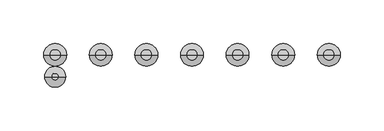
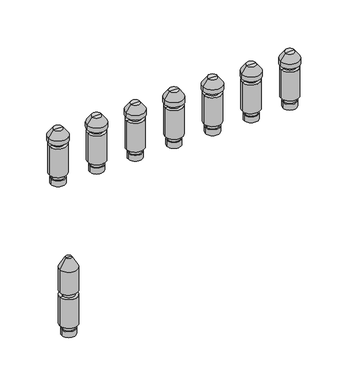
"""IFC4 building model written with IfcOpenShell, lengths in millimetres: valve geometry, PL AT_Manifold_FT-EV : 15 circuits."""

from ifc_helpers import new_model, si_unit, frame, origin, place, context, project, spatial, polyline, circle_curve, source, transform, mapped, element, save
from ifc_brep_helpers import plane_surface, cylinder_surface, revolved_surface, advanced_brep


def valve_e7cc262d(model_context):
    return source(origin(), model_context, "Body", "AdvancedBrep", [
        advanced_brep(
        [(658.2142857, 25.0, 164.88733), (677.2142857, 25.0, 164.88733), (667.7142857, 25.0, 164.88733), (658.2142857, 25.0, 172.9630354), (677.2142857, 25.0, 172.9630354), (659.7142857, 25.0, 172.9630354), (675.7142857, 25.0, 172.9630354), (659.7142857, 25.0, 179.669747), (675.7142857, 25.0, 179.669747), (655.7142857, 25.0, 179.669747), (679.7142857, 25.0, 179.669747), (655.7142857, 25.0, 220.330253), (679.7142857, 25.0, 220.330253), (659.7142857, 25.0, 220.330253), (675.7142857, 25.0, 220.330253), (659.7142857, 25.0, 226.0474786), (675.7142857, 25.0, 226.0474786), (654.7142857, 25.0, 226.0474786), (680.7142857, 25.0, 226.0474786), (654.7142857, 25.0, 232.337955), (680.7142857, 25.0, 232.337955), (661.3694636, 25.0, 241.842534), (674.0591078, 25.0, 241.842534), (667.7142857, 25.0, 241.842534)],
        [
            (0, 1, circle_curve(frame((667.7142857, 25.0, 164.88733), z_axis=(0.0, 0.0, -1.0), x_axis=(1.0, 0.0, 0.0)), 9.5)),
            (1, 2),
            (2, 0),
            (1, 0, circle_curve(frame((667.7142857, 25.0, 164.88733), z_axis=(0.0, 0.0, -1.0), x_axis=(1.0, 0.0, 0.0)), 9.5)),
            (3, 4, circle_curve(frame((667.7142857, 25.0, 172.9630354), z_axis=(0.0, 0.0, -1.0), x_axis=(1.0, 0.0, 0.0)), 9.5)),
            (4, 1),
            (0, 3),
            (4, 3, circle_curve(frame((667.7142857, 25.0, 172.9630354), z_axis=(0.0, 0.0, -1.0), x_axis=(1.0, 0.0, 0.0)), 9.5)),
            (5, 6, circle_curve(frame((667.7142857, 25.0, 172.9630354), z_axis=(0.0, 0.0, -1.0), x_axis=(1.0, 0.0, 0.0)), 8.0)),
            (6, 4),
            (3, 5),
            (6, 5, circle_curve(frame((667.7142857, 25.0, 172.9630354), z_axis=(0.0, 0.0, -1.0), x_axis=(1.0, 0.0, 0.0)), 8.0)),
            (7, 8, circle_curve(frame((667.7142857, 25.0, 179.669747), z_axis=(0.0, 0.0, -1.0), x_axis=(1.0, 0.0, 0.0)), 8.0)),
            (8, 6),
            (5, 7),
            (8, 7, circle_curve(frame((667.7142857, 25.0, 179.669747), z_axis=(0.0, 0.0, -1.0), x_axis=(1.0, 0.0, 0.0)), 8.0)),
            (9, 10, circle_curve(frame((667.7142857, 25.0, 179.669747), z_axis=(0.0, 0.0, -1.0), x_axis=(1.0, 0.0, 0.0)), 12.0)),
            (10, 8),
            (7, 9),
            (10, 9, circle_curve(frame((667.7142857, 25.0, 179.669747), z_axis=(0.0, 0.0, -1.0), x_axis=(1.0, 0.0, 0.0)), 12.0)),
            (11, 12, circle_curve(frame((667.7142857, 25.0, 220.330253), z_axis=(0.0, 0.0, -1.0), x_axis=(1.0, 0.0, 0.0)), 12.0)),
            (12, 10),
            (9, 11),
            (12, 11, circle_curve(frame((667.7142857, 25.0, 220.330253), z_axis=(0.0, 0.0, -1.0), x_axis=(1.0, 0.0, 0.0)), 12.0)),
            (13, 14, circle_curve(frame((667.7142857, 25.0, 220.330253), z_axis=(0.0, 0.0, -1.0), x_axis=(1.0, 0.0, 0.0)), 8.0)),
            (14, 12),
            (11, 13),
            (14, 13, circle_curve(frame((667.7142857, 25.0, 220.330253), z_axis=(0.0, 0.0, -1.0), x_axis=(1.0, 0.0, 0.0)), 8.0)),
            (15, 16, circle_curve(frame((667.7142857, 25.0, 226.0474786), z_axis=(0.0, 0.0, -1.0), x_axis=(1.0, 0.0, 0.0)), 8.0)),
            (16, 14),
            (13, 15),
            (16, 15, circle_curve(frame((667.7142857, 25.0, 226.0474786), z_axis=(0.0, 0.0, -1.0), x_axis=(1.0, 0.0, 0.0)), 8.0)),
            (17, 18, circle_curve(frame((667.7142857, 25.0, 226.0474786), z_axis=(0.0, 0.0, -1.0), x_axis=(1.0, 0.0, 0.0)), 13.0)),
            (18, 16),
            (15, 17),
            (18, 17, circle_curve(frame((667.7142857, 25.0, 226.0474786), z_axis=(0.0, 0.0, -1.0), x_axis=(1.0, 0.0, 0.0)), 13.0)),
            (19, 20, circle_curve(frame((667.7142857, 25.0, 232.337955), z_axis=(0.0, 0.0, -1.0), x_axis=(1.0, 0.0, 0.0)), 13.0)),
            (20, 18),
            (17, 19),
            (20, 19, circle_curve(frame((667.7142857, 25.0, 232.337955), z_axis=(0.0, 0.0, -1.0), x_axis=(1.0, 0.0, 0.0)), 13.0)),
            (21, 22, circle_curve(frame((667.7142857, 25.0, 241.842534), z_axis=(0.0, 0.0, -1.0), x_axis=(1.0, 0.0, 0.0)), 6.3448221)),
            (22, 20),
            (19, 21),
            (22, 21, circle_curve(frame((667.7142857, 25.0, 241.842534), z_axis=(0.0, 0.0, -1.0), x_axis=(1.0, 0.0, 0.0)), 6.3448221)),
            (23, 22),
            (21, 23),
        ],
        [
            plane_surface(frame((667.7142857, 25.0, 164.88733), z_axis=(0.0, 0.0, -1.0), x_axis=(1.0, 0.0, 0.0))),
            cylinder_surface(frame((667.7142857, 25.0, 237.7026565), z_axis=(0.0, 0.0, 1.0), x_axis=(1.0, 0.0, 0.0)), 9.5),
            plane_surface(frame((667.7142857, 25.0, 172.9630354), z_axis=(0.0, 0.0, 1.0), x_axis=(1.0, 0.0, 0.0))),
            cylinder_surface(frame((667.7142857, 25.0, 237.7026565), z_axis=(0.0, 0.0, 1.0), x_axis=(1.0, 0.0, 0.0)), 8.0),
            plane_surface(frame((667.7142857, 25.0, 179.669747), z_axis=(0.0, 0.0, -1.0), x_axis=(1.0, 0.0, 0.0))),
            cylinder_surface(frame((667.7142857, 25.0, 237.7026565), z_axis=(0.0, 0.0, 1.0), x_axis=(1.0, 0.0, 0.0)), 12.0),
            plane_surface(frame((667.7142857, 25.0, 220.330253), z_axis=(0.0, 0.0, 1.0), x_axis=(1.0, 0.0, 0.0))),
            plane_surface(frame((667.7142857, 25.0, 226.0474786), z_axis=(0.0, 0.0, -1.0), x_axis=(1.0, 0.0, 0.0))),
            cylinder_surface(frame((667.7142857, 25.0, 237.7026565), z_axis=(0.0, 0.0, 1.0), x_axis=(1.0, 0.0, 0.0)), 13.0),
            revolved_surface(polyline([(680.7142857, 25.0, 232.337955), (674.0591078, 25.0, 241.842534)]), (667.7142857, 25.0, 237.7026565), (0.0, 0.0, 1.0)),
            plane_surface(frame((667.7142857, 25.0, 241.842534), z_axis=(0.0, 0.0, 1.0), x_axis=(1.0, 0.0, 0.0))),
        ],
        [
            (0, [[1, 2, 3]]),
            (0, [[4, -3, -2]]),
            (1, [[5, 6, -1, 7]]),
            (1, [[8, -7, -4, -6]]),
            (2, [[9, 10, -5, 11]]),
            (2, [[12, -11, -8, -10]]),
            (3, [[13, 14, -9, 15]]),
            (3, [[16, -15, -12, -14]]),
            (4, [[17, 18, -13, 19]]),
            (4, [[20, -19, -16, -18]]),
            (5, [[21, 22, -17, 23]]),
            (5, [[24, -23, -20, -22]]),
            (6, [[25, 26, -21, 27]]),
            (6, [[28, -27, -24, -26]]),
            (3, [[29, 30, -25, 31]]),
            (3, [[32, -31, -28, -30]]),
            (7, [[33, 34, -29, 35]]),
            (7, [[36, -35, -32, -34]]),
            (8, [[37, 38, -33, 39]]),
            (8, [[40, -39, -36, -38]]),
            (9, [[41, 42, -37, 43]]),
            (9, [[44, -43, -40, -42]]),
            (10, [[45, -41, 46]]),
            (10, [[-46, -44, -45]]),
        ],
    ),
        advanced_brep(
        [(606.0714286, 25.0, 164.88733), (625.0714286, 25.0, 164.88733), (615.5714286, 25.0, 164.88733), (606.0714286, 25.0, 172.9630354), (625.0714286, 25.0, 172.9630354), (607.5714286, 25.0, 172.9630354), (623.5714286, 25.0, 172.9630354), (607.5714286, 25.0, 179.669747), (623.5714286, 25.0, 179.669747), (603.5714286, 25.0, 179.669747), (627.5714286, 25.0, 179.669747), (603.5714286, 25.0, 220.330253), (627.5714286, 25.0, 220.330253), (607.5714286, 25.0, 220.330253), (623.5714286, 25.0, 220.330253), (607.5714286, 25.0, 226.0474786), (623.5714286, 25.0, 226.0474786), (602.5714286, 25.0, 226.0474786), (628.5714286, 25.0, 226.0474786), (602.5714286, 25.0, 232.337955), (628.5714286, 25.0, 232.337955), (609.2266064, 25.0, 241.842534), (621.9162507, 25.0, 241.842534), (615.5714286, 25.0, 241.842534)],
        [
            (0, 1, circle_curve(frame((615.5714286, 25.0, 164.88733), z_axis=(0.0, 0.0, -1.0), x_axis=(1.0, 0.0, 0.0)), 9.5)),
            (1, 2),
            (2, 0),
            (1, 0, circle_curve(frame((615.5714286, 25.0, 164.88733), z_axis=(0.0, 0.0, -1.0), x_axis=(1.0, 0.0, 0.0)), 9.5)),
            (3, 4, circle_curve(frame((615.5714286, 25.0, 172.9630354), z_axis=(0.0, 0.0, -1.0), x_axis=(1.0, 0.0, 0.0)), 9.5)),
            (4, 1),
            (0, 3),
            (4, 3, circle_curve(frame((615.5714286, 25.0, 172.9630354), z_axis=(0.0, 0.0, -1.0), x_axis=(1.0, 0.0, 0.0)), 9.5)),
            (5, 6, circle_curve(frame((615.5714286, 25.0, 172.9630354), z_axis=(0.0, 0.0, -1.0), x_axis=(1.0, 0.0, 0.0)), 8.0)),
            (6, 4),
            (3, 5),
            (6, 5, circle_curve(frame((615.5714286, 25.0, 172.9630354), z_axis=(0.0, 0.0, -1.0), x_axis=(1.0, 0.0, 0.0)), 8.0)),
            (7, 8, circle_curve(frame((615.5714286, 25.0, 179.669747), z_axis=(0.0, 0.0, -1.0), x_axis=(1.0, 0.0, 0.0)), 8.0)),
            (8, 6),
            (5, 7),
            (8, 7, circle_curve(frame((615.5714286, 25.0, 179.669747), z_axis=(0.0, 0.0, -1.0), x_axis=(1.0, 0.0, 0.0)), 8.0)),
            (9, 10, circle_curve(frame((615.5714286, 25.0, 179.669747), z_axis=(0.0, 0.0, -1.0), x_axis=(1.0, 0.0, 0.0)), 12.0)),
            (10, 8),
            (7, 9),
            (10, 9, circle_curve(frame((615.5714286, 25.0, 179.669747), z_axis=(0.0, 0.0, -1.0), x_axis=(1.0, 0.0, 0.0)), 12.0)),
            (11, 12, circle_curve(frame((615.5714286, 25.0, 220.330253), z_axis=(0.0, 0.0, -1.0), x_axis=(1.0, 0.0, 0.0)), 12.0)),
            (12, 10),
            (9, 11),
            (12, 11, circle_curve(frame((615.5714286, 25.0, 220.330253), z_axis=(0.0, 0.0, -1.0), x_axis=(1.0, 0.0, 0.0)), 12.0)),
            (13, 14, circle_curve(frame((615.5714286, 25.0, 220.330253), z_axis=(0.0, 0.0, -1.0), x_axis=(1.0, 0.0, 0.0)), 8.0)),
            (14, 12),
            (11, 13),
            (14, 13, circle_curve(frame((615.5714286, 25.0, 220.330253), z_axis=(0.0, 0.0, -1.0), x_axis=(1.0, 0.0, 0.0)), 8.0)),
            (15, 16, circle_curve(frame((615.5714286, 25.0, 226.0474786), z_axis=(0.0, 0.0, -1.0), x_axis=(1.0, 0.0, 0.0)), 8.0)),
            (16, 14),
            (13, 15),
            (16, 15, circle_curve(frame((615.5714286, 25.0, 226.0474786), z_axis=(0.0, 0.0, -1.0), x_axis=(1.0, 0.0, 0.0)), 8.0)),
            (17, 18, circle_curve(frame((615.5714286, 25.0, 226.0474786), z_axis=(0.0, 0.0, -1.0), x_axis=(1.0, 0.0, 0.0)), 13.0)),
            (18, 16),
            (15, 17),
            (18, 17, circle_curve(frame((615.5714286, 25.0, 226.0474786), z_axis=(0.0, 0.0, -1.0), x_axis=(1.0, 0.0, 0.0)), 13.0)),
            (19, 20, circle_curve(frame((615.5714286, 25.0, 232.337955), z_axis=(0.0, 0.0, -1.0), x_axis=(1.0, 0.0, 0.0)), 13.0)),
            (20, 18),
            (17, 19),
            (20, 19, circle_curve(frame((615.5714286, 25.0, 232.337955), z_axis=(0.0, 0.0, -1.0), x_axis=(1.0, 0.0, 0.0)), 13.0)),
            (21, 22, circle_curve(frame((615.5714286, 25.0, 241.842534), z_axis=(0.0, 0.0, -1.0), x_axis=(1.0, 0.0, 0.0)), 6.3448221)),
            (22, 20),
            (19, 21),
            (22, 21, circle_curve(frame((615.5714286, 25.0, 241.842534), z_axis=(0.0, 0.0, -1.0), x_axis=(1.0, 0.0, 0.0)), 6.3448221)),
            (23, 22),
            (21, 23),
        ],
        [
            plane_surface(frame((615.5714286, 25.0, 164.88733), z_axis=(0.0, 0.0, -1.0), x_axis=(1.0, 0.0, 0.0))),
            cylinder_surface(frame((615.5714286, 25.0, 237.7026565), z_axis=(0.0, 0.0, 1.0), x_axis=(1.0, 0.0, 0.0)), 9.5),
            plane_surface(frame((615.5714286, 25.0, 172.9630354), z_axis=(0.0, 0.0, 1.0), x_axis=(1.0, 0.0, 0.0))),
            cylinder_surface(frame((615.5714286, 25.0, 237.7026565), z_axis=(0.0, 0.0, 1.0), x_axis=(1.0, 0.0, 0.0)), 8.0),
            plane_surface(frame((615.5714286, 25.0, 179.669747), z_axis=(0.0, 0.0, -1.0), x_axis=(1.0, 0.0, 0.0))),
            cylinder_surface(frame((615.5714286, 25.0, 237.7026565), z_axis=(0.0, 0.0, 1.0), x_axis=(1.0, 0.0, 0.0)), 12.0),
            plane_surface(frame((615.5714286, 25.0, 220.330253), z_axis=(0.0, 0.0, 1.0), x_axis=(1.0, 0.0, 0.0))),
            plane_surface(frame((615.5714286, 25.0, 226.0474786), z_axis=(0.0, 0.0, -1.0), x_axis=(1.0, 0.0, 0.0))),
            cylinder_surface(frame((615.5714286, 25.0, 237.7026565), z_axis=(0.0, 0.0, 1.0), x_axis=(1.0, 0.0, 0.0)), 13.0),
            revolved_surface(polyline([(628.5714286, 25.0, 232.337955), (621.9162507, 25.0, 241.842534)]), (615.5714286, 25.0, 237.7026565), (0.0, 0.0, 1.0)),
            plane_surface(frame((615.5714286, 25.0, 241.842534), z_axis=(0.0, 0.0, 1.0), x_axis=(1.0, 0.0, 0.0))),
        ],
        [
            (0, [[1, 2, 3]]),
            (0, [[4, -3, -2]]),
            (1, [[5, 6, -1, 7]]),
            (1, [[8, -7, -4, -6]]),
            (2, [[9, 10, -5, 11]]),
            (2, [[12, -11, -8, -10]]),
            (3, [[13, 14, -9, 15]]),
            (3, [[16, -15, -12, -14]]),
            (4, [[17, 18, -13, 19]]),
            (4, [[20, -19, -16, -18]]),
            (5, [[21, 22, -17, 23]]),
            (5, [[24, -23, -20, -22]]),
            (6, [[25, 26, -21, 27]]),
            (6, [[28, -27, -24, -26]]),
            (3, [[29, 30, -25, 31]]),
            (3, [[32, -31, -28, -30]]),
            (7, [[33, 34, -29, 35]]),
            (7, [[36, -35, -32, -34]]),
            (8, [[37, 38, -33, 39]]),
            (8, [[40, -39, -36, -38]]),
            (9, [[41, 42, -37, 43]]),
            (9, [[44, -43, -40, -42]]),
            (10, [[45, -41, 46]]),
            (10, [[-46, -44, -45]]),
        ],
    ),
        advanced_brep(
        [(553.9285714, 25.0, 164.88733), (572.9285714, 25.0, 164.88733), (563.4285714, 25.0, 164.88733), (553.9285714, 25.0, 172.9630354), (572.9285714, 25.0, 172.9630354), (555.4285714, 25.0, 172.9630354), (571.4285714, 25.0, 172.9630354), (555.4285714, 25.0, 179.669747), (571.4285714, 25.0, 179.669747), (551.4285714, 25.0, 179.669747), (575.4285714, 25.0, 179.669747), (551.4285714, 25.0, 220.330253), (575.4285714, 25.0, 220.330253), (555.4285714, 25.0, 220.330253), (571.4285714, 25.0, 220.330253), (555.4285714, 25.0, 226.0474786), (571.4285714, 25.0, 226.0474786), (550.4285714, 25.0, 226.0474786), (576.4285714, 25.0, 226.0474786), (550.4285714, 25.0, 232.337955), (576.4285714, 25.0, 232.337955), (557.0837493, 25.0, 241.842534), (569.7733936, 25.0, 241.842534), (563.4285714, 25.0, 241.842534)],
        [
            (0, 1, circle_curve(frame((563.4285714, 25.0, 164.88733), z_axis=(0.0, 0.0, -1.0), x_axis=(1.0, 0.0, 0.0)), 9.5)),
            (1, 2),
            (2, 0),
            (1, 0, circle_curve(frame((563.4285714, 25.0, 164.88733), z_axis=(0.0, 0.0, -1.0), x_axis=(1.0, 0.0, 0.0)), 9.5)),
            (3, 4, circle_curve(frame((563.4285714, 25.0, 172.9630354), z_axis=(0.0, 0.0, -1.0), x_axis=(1.0, 0.0, 0.0)), 9.5)),
            (4, 1),
            (0, 3),
            (4, 3, circle_curve(frame((563.4285714, 25.0, 172.9630354), z_axis=(0.0, 0.0, -1.0), x_axis=(1.0, 0.0, 0.0)), 9.5)),
            (5, 6, circle_curve(frame((563.4285714, 25.0, 172.9630354), z_axis=(0.0, 0.0, -1.0), x_axis=(1.0, 0.0, 0.0)), 8.0)),
            (6, 4),
            (3, 5),
            (6, 5, circle_curve(frame((563.4285714, 25.0, 172.9630354), z_axis=(0.0, 0.0, -1.0), x_axis=(1.0, 0.0, 0.0)), 8.0)),
            (7, 8, circle_curve(frame((563.4285714, 25.0, 179.669747), z_axis=(0.0, 0.0, -1.0), x_axis=(1.0, 0.0, 0.0)), 8.0)),
            (8, 6),
            (5, 7),
            (8, 7, circle_curve(frame((563.4285714, 25.0, 179.669747), z_axis=(0.0, 0.0, -1.0), x_axis=(1.0, 0.0, 0.0)), 8.0)),
            (9, 10, circle_curve(frame((563.4285714, 25.0, 179.669747), z_axis=(0.0, 0.0, -1.0), x_axis=(1.0, 0.0, 0.0)), 12.0)),
            (10, 8),
            (7, 9),
            (10, 9, circle_curve(frame((563.4285714, 25.0, 179.669747), z_axis=(0.0, 0.0, -1.0), x_axis=(1.0, 0.0, 0.0)), 12.0)),
            (11, 12, circle_curve(frame((563.4285714, 25.0, 220.330253), z_axis=(0.0, 0.0, -1.0), x_axis=(1.0, 0.0, 0.0)), 12.0)),
            (12, 10),
            (9, 11),
            (12, 11, circle_curve(frame((563.4285714, 25.0, 220.330253), z_axis=(0.0, 0.0, -1.0), x_axis=(1.0, 0.0, 0.0)), 12.0)),
            (13, 14, circle_curve(frame((563.4285714, 25.0, 220.330253), z_axis=(0.0, 0.0, -1.0), x_axis=(1.0, 0.0, 0.0)), 8.0)),
            (14, 12),
            (11, 13),
            (14, 13, circle_curve(frame((563.4285714, 25.0, 220.330253), z_axis=(0.0, 0.0, -1.0), x_axis=(1.0, 0.0, 0.0)), 8.0)),
            (15, 16, circle_curve(frame((563.4285714, 25.0, 226.0474786), z_axis=(0.0, 0.0, -1.0), x_axis=(1.0, 0.0, 0.0)), 8.0)),
            (16, 14),
            (13, 15),
            (16, 15, circle_curve(frame((563.4285714, 25.0, 226.0474786), z_axis=(0.0, 0.0, -1.0), x_axis=(1.0, 0.0, 0.0)), 8.0)),
            (17, 18, circle_curve(frame((563.4285714, 25.0, 226.0474786), z_axis=(0.0, 0.0, -1.0), x_axis=(1.0, 0.0, 0.0)), 13.0)),
            (18, 16),
            (15, 17),
            (18, 17, circle_curve(frame((563.4285714, 25.0, 226.0474786), z_axis=(0.0, 0.0, -1.0), x_axis=(1.0, 0.0, 0.0)), 13.0)),
            (19, 20, circle_curve(frame((563.4285714, 25.0, 232.337955), z_axis=(0.0, 0.0, -1.0), x_axis=(1.0, 0.0, 0.0)), 13.0)),
            (20, 18),
            (17, 19),
            (20, 19, circle_curve(frame((563.4285714, 25.0, 232.337955), z_axis=(0.0, 0.0, -1.0), x_axis=(1.0, 0.0, 0.0)), 13.0)),
            (21, 22, circle_curve(frame((563.4285714, 25.0, 241.842534), z_axis=(0.0, 0.0, -1.0), x_axis=(1.0, 0.0, 0.0)), 6.3448221)),
            (22, 20),
            (19, 21),
            (22, 21, circle_curve(frame((563.4285714, 25.0, 241.842534), z_axis=(0.0, 0.0, -1.0), x_axis=(1.0, 0.0, 0.0)), 6.3448221)),
            (23, 22),
            (21, 23),
        ],
        [
            plane_surface(frame((563.4285714, 25.0, 164.88733), z_axis=(0.0, 0.0, -1.0), x_axis=(1.0, 0.0, 0.0))),
            cylinder_surface(frame((563.4285714, 25.0, 237.7026565), z_axis=(0.0, 0.0, 1.0), x_axis=(1.0, 0.0, 0.0)), 9.5),
            plane_surface(frame((563.4285714, 25.0, 172.9630354), z_axis=(0.0, 0.0, 1.0), x_axis=(1.0, 0.0, 0.0))),
            cylinder_surface(frame((563.4285714, 25.0, 237.7026565), z_axis=(0.0, 0.0, 1.0), x_axis=(1.0, 0.0, 0.0)), 8.0),
            plane_surface(frame((563.4285714, 25.0, 179.669747), z_axis=(0.0, 0.0, -1.0), x_axis=(1.0, 0.0, 0.0))),
            cylinder_surface(frame((563.4285714, 25.0, 237.7026565), z_axis=(0.0, 0.0, 1.0), x_axis=(1.0, 0.0, 0.0)), 12.0),
            plane_surface(frame((563.4285714, 25.0, 220.330253), z_axis=(0.0, 0.0, 1.0), x_axis=(1.0, 0.0, 0.0))),
            plane_surface(frame((563.4285714, 25.0, 226.0474786), z_axis=(0.0, 0.0, -1.0), x_axis=(1.0, 0.0, 0.0))),
            cylinder_surface(frame((563.4285714, 25.0, 237.7026565), z_axis=(0.0, 0.0, 1.0), x_axis=(1.0, 0.0, 0.0)), 13.0),
            revolved_surface(polyline([(576.4285714, 25.0, 232.337955), (569.7733936, 25.0, 241.842534)]), (563.4285714, 25.0, 237.7026565), (0.0, 0.0, 1.0)),
            plane_surface(frame((563.4285714, 25.0, 241.842534), z_axis=(0.0, 0.0, 1.0), x_axis=(1.0, 0.0, 0.0))),
        ],
        [
            (0, [[1, 2, 3]]),
            (0, [[4, -3, -2]]),
            (1, [[5, 6, -1, 7]]),
            (1, [[8, -7, -4, -6]]),
            (2, [[9, 10, -5, 11]]),
            (2, [[12, -11, -8, -10]]),
            (3, [[13, 14, -9, 15]]),
            (3, [[16, -15, -12, -14]]),
            (4, [[17, 18, -13, 19]]),
            (4, [[20, -19, -16, -18]]),
            (5, [[21, 22, -17, 23]]),
            (5, [[24, -23, -20, -22]]),
            (6, [[25, 26, -21, 27]]),
            (6, [[28, -27, -24, -26]]),
            (3, [[29, 30, -25, 31]]),
            (3, [[32, -31, -28, -30]]),
            (7, [[33, 34, -29, 35]]),
            (7, [[36, -35, -32, -34]]),
            (8, [[37, 38, -33, 39]]),
            (8, [[40, -39, -36, -38]]),
            (9, [[41, 42, -37, 43]]),
            (9, [[44, -43, -40, -42]]),
            (10, [[45, -41, 46]]),
            (10, [[-46, -44, -45]]),
        ],
    ),
        advanced_brep(
        [(501.7857143, 25.0, 164.88733), (520.7857143, 25.0, 164.88733), (511.2857143, 25.0, 164.88733), (501.7857143, 25.0, 172.9630354), (520.7857143, 25.0, 172.9630354), (503.2857143, 25.0, 172.9630354), (519.2857143, 25.0, 172.9630354), (503.2857143, 25.0, 179.669747), (519.2857143, 25.0, 179.669747), (499.2857143, 25.0, 179.669747), (523.2857143, 25.0, 179.669747), (499.2857143, 25.0, 220.330253), (523.2857143, 25.0, 220.330253), (503.2857143, 25.0, 220.330253), (519.2857143, 25.0, 220.330253), (503.2857143, 25.0, 226.0474786), (519.2857143, 25.0, 226.0474786), (498.2857143, 25.0, 226.0474786), (524.2857143, 25.0, 226.0474786), (498.2857143, 25.0, 232.337955), (524.2857143, 25.0, 232.337955), (504.9408922, 25.0, 241.842534), (517.6305364, 25.0, 241.842534), (511.2857143, 25.0, 241.842534)],
        [
            (0, 1, circle_curve(frame((511.2857143, 25.0, 164.88733), z_axis=(0.0, 0.0, -1.0), x_axis=(1.0, 0.0, 0.0)), 9.5)),
            (1, 2),
            (2, 0),
            (1, 0, circle_curve(frame((511.2857143, 25.0, 164.88733), z_axis=(0.0, 0.0, -1.0), x_axis=(1.0, 0.0, 0.0)), 9.5)),
            (3, 4, circle_curve(frame((511.2857143, 25.0, 172.9630354), z_axis=(0.0, 0.0, -1.0), x_axis=(1.0, 0.0, 0.0)), 9.5)),
            (4, 1),
            (0, 3),
            (4, 3, circle_curve(frame((511.2857143, 25.0, 172.9630354), z_axis=(0.0, 0.0, -1.0), x_axis=(1.0, 0.0, 0.0)), 9.5)),
            (5, 6, circle_curve(frame((511.2857143, 25.0, 172.9630354), z_axis=(0.0, 0.0, -1.0), x_axis=(1.0, 0.0, 0.0)), 8.0)),
            (6, 4),
            (3, 5),
            (6, 5, circle_curve(frame((511.2857143, 25.0, 172.9630354), z_axis=(0.0, 0.0, -1.0), x_axis=(1.0, 0.0, 0.0)), 8.0)),
            (7, 8, circle_curve(frame((511.2857143, 25.0, 179.669747), z_axis=(0.0, 0.0, -1.0), x_axis=(1.0, 0.0, 0.0)), 8.0)),
            (8, 6),
            (5, 7),
            (8, 7, circle_curve(frame((511.2857143, 25.0, 179.669747), z_axis=(0.0, 0.0, -1.0), x_axis=(1.0, 0.0, 0.0)), 8.0)),
            (9, 10, circle_curve(frame((511.2857143, 25.0, 179.669747), z_axis=(0.0, 0.0, -1.0), x_axis=(1.0, 0.0, 0.0)), 12.0)),
            (10, 8),
            (7, 9),
            (10, 9, circle_curve(frame((511.2857143, 25.0, 179.669747), z_axis=(0.0, 0.0, -1.0), x_axis=(1.0, 0.0, 0.0)), 12.0)),
            (11, 12, circle_curve(frame((511.2857143, 25.0, 220.330253), z_axis=(0.0, 0.0, -1.0), x_axis=(1.0, 0.0, 0.0)), 12.0)),
            (12, 10),
            (9, 11),
            (12, 11, circle_curve(frame((511.2857143, 25.0, 220.330253), z_axis=(0.0, 0.0, -1.0), x_axis=(1.0, 0.0, 0.0)), 12.0)),
            (13, 14, circle_curve(frame((511.2857143, 25.0, 220.330253), z_axis=(0.0, 0.0, -1.0), x_axis=(1.0, 0.0, 0.0)), 8.0)),
            (14, 12),
            (11, 13),
            (14, 13, circle_curve(frame((511.2857143, 25.0, 220.330253), z_axis=(0.0, 0.0, -1.0), x_axis=(1.0, 0.0, 0.0)), 8.0)),
            (15, 16, circle_curve(frame((511.2857143, 25.0, 226.0474786), z_axis=(0.0, 0.0, -1.0), x_axis=(1.0, 0.0, 0.0)), 8.0)),
            (16, 14),
            (13, 15),
            (16, 15, circle_curve(frame((511.2857143, 25.0, 226.0474786), z_axis=(0.0, 0.0, -1.0), x_axis=(1.0, 0.0, 0.0)), 8.0)),
            (17, 18, circle_curve(frame((511.2857143, 25.0, 226.0474786), z_axis=(0.0, 0.0, -1.0), x_axis=(1.0, 0.0, 0.0)), 13.0)),
            (18, 16),
            (15, 17),
            (18, 17, circle_curve(frame((511.2857143, 25.0, 226.0474786), z_axis=(0.0, 0.0, -1.0), x_axis=(1.0, 0.0, 0.0)), 13.0)),
            (19, 20, circle_curve(frame((511.2857143, 25.0, 232.337955), z_axis=(0.0, 0.0, -1.0), x_axis=(1.0, 0.0, 0.0)), 13.0)),
            (20, 18),
            (17, 19),
            (20, 19, circle_curve(frame((511.2857143, 25.0, 232.337955), z_axis=(0.0, 0.0, -1.0), x_axis=(1.0, 0.0, 0.0)), 13.0)),
            (21, 22, circle_curve(frame((511.2857143, 25.0, 241.842534), z_axis=(0.0, 0.0, -1.0), x_axis=(1.0, 0.0, 0.0)), 6.3448221)),
            (22, 20),
            (19, 21),
            (22, 21, circle_curve(frame((511.2857143, 25.0, 241.842534), z_axis=(0.0, 0.0, -1.0), x_axis=(1.0, 0.0, 0.0)), 6.3448221)),
            (23, 22),
            (21, 23),
        ],
        [
            plane_surface(frame((511.2857143, 25.0, 164.88733), z_axis=(0.0, 0.0, -1.0), x_axis=(1.0, 0.0, 0.0))),
            cylinder_surface(frame((511.2857143, 25.0, 237.7026565), z_axis=(0.0, 0.0, 1.0), x_axis=(1.0, 0.0, 0.0)), 9.5),
            plane_surface(frame((511.2857143, 25.0, 172.9630354), z_axis=(0.0, 0.0, 1.0), x_axis=(1.0, 0.0, 0.0))),
            cylinder_surface(frame((511.2857143, 25.0, 237.7026565), z_axis=(0.0, 0.0, 1.0), x_axis=(1.0, 0.0, 0.0)), 8.0),
            plane_surface(frame((511.2857143, 25.0, 179.669747), z_axis=(0.0, 0.0, -1.0), x_axis=(1.0, 0.0, 0.0))),
            cylinder_surface(frame((511.2857143, 25.0, 237.7026565), z_axis=(0.0, 0.0, 1.0), x_axis=(1.0, 0.0, 0.0)), 12.0),
            plane_surface(frame((511.2857143, 25.0, 220.330253), z_axis=(0.0, 0.0, 1.0), x_axis=(1.0, 0.0, 0.0))),
            plane_surface(frame((511.2857143, 25.0, 226.0474786), z_axis=(0.0, 0.0, -1.0), x_axis=(1.0, 0.0, 0.0))),
            cylinder_surface(frame((511.2857143, 25.0, 237.7026565), z_axis=(0.0, 0.0, 1.0), x_axis=(1.0, 0.0, 0.0)), 13.0),
            revolved_surface(polyline([(524.2857143, 25.0, 232.337955), (517.6305364, 25.0, 241.842534)]), (511.2857143, 25.0, 237.7026565), (0.0, 0.0, 1.0)),
            plane_surface(frame((511.2857143, 25.0, 241.842534), z_axis=(0.0, 0.0, 1.0), x_axis=(1.0, 0.0, 0.0))),
        ],
        [
            (0, [[1, 2, 3]]),
            (0, [[4, -3, -2]]),
            (1, [[5, 6, -1, 7]]),
            (1, [[8, -7, -4, -6]]),
            (2, [[9, 10, -5, 11]]),
            (2, [[12, -11, -8, -10]]),
            (3, [[13, 14, -9, 15]]),
            (3, [[16, -15, -12, -14]]),
            (4, [[17, 18, -13, 19]]),
            (4, [[20, -19, -16, -18]]),
            (5, [[21, 22, -17, 23]]),
            (5, [[24, -23, -20, -22]]),
            (6, [[25, 26, -21, 27]]),
            (6, [[28, -27, -24, -26]]),
            (3, [[29, 30, -25, 31]]),
            (3, [[32, -31, -28, -30]]),
            (7, [[33, 34, -29, 35]]),
            (7, [[36, -35, -32, -34]]),
            (8, [[37, 38, -33, 39]]),
            (8, [[40, -39, -36, -38]]),
            (9, [[41, 42, -37, 43]]),
            (9, [[44, -43, -40, -42]]),
            (10, [[45, -41, 46]]),
            (10, [[-46, -44, -45]]),
        ],
    ),
        advanced_brep(
        [(449.6428571, 25.0, 164.88733), (468.6428571, 25.0, 164.88733), (459.1428571, 25.0, 164.88733), (449.6428571, 25.0, 172.9630354), (468.6428571, 25.0, 172.9630354), (451.1428571, 25.0, 172.9630354), (467.1428571, 25.0, 172.9630354), (451.1428571, 25.0, 179.669747), (467.1428571, 25.0, 179.669747), (447.1428571, 25.0, 179.669747), (471.1428571, 25.0, 179.669747), (447.1428571, 25.0, 220.330253), (471.1428571, 25.0, 220.330253), (451.1428571, 25.0, 220.330253), (467.1428571, 25.0, 220.330253), (451.1428571, 25.0, 226.0474786), (467.1428571, 25.0, 226.0474786), (446.1428571, 25.0, 226.0474786), (472.1428571, 25.0, 226.0474786), (446.1428571, 25.0, 232.337955), (472.1428571, 25.0, 232.337955), (452.798035, 25.0, 241.842534), (465.4876793, 25.0, 241.842534), (459.1428571, 25.0, 241.842534)],
        [
            (0, 1, circle_curve(frame((459.1428571, 25.0, 164.88733), z_axis=(0.0, 0.0, -1.0), x_axis=(1.0, 0.0, 0.0)), 9.5)),
            (1, 2),
            (2, 0),
            (1, 0, circle_curve(frame((459.1428571, 25.0, 164.88733), z_axis=(0.0, 0.0, -1.0), x_axis=(1.0, 0.0, 0.0)), 9.5)),
            (3, 4, circle_curve(frame((459.1428571, 25.0, 172.9630354), z_axis=(0.0, 0.0, -1.0), x_axis=(1.0, 0.0, 0.0)), 9.5)),
            (4, 1),
            (0, 3),
            (4, 3, circle_curve(frame((459.1428571, 25.0, 172.9630354), z_axis=(0.0, 0.0, -1.0), x_axis=(1.0, 0.0, 0.0)), 9.5)),
            (5, 6, circle_curve(frame((459.1428571, 25.0, 172.9630354), z_axis=(0.0, 0.0, -1.0), x_axis=(1.0, 0.0, 0.0)), 8.0)),
            (6, 4),
            (3, 5),
            (6, 5, circle_curve(frame((459.1428571, 25.0, 172.9630354), z_axis=(0.0, 0.0, -1.0), x_axis=(1.0, 0.0, 0.0)), 8.0)),
            (7, 8, circle_curve(frame((459.1428571, 25.0, 179.669747), z_axis=(0.0, 0.0, -1.0), x_axis=(1.0, 0.0, 0.0)), 8.0)),
            (8, 6),
            (5, 7),
            (8, 7, circle_curve(frame((459.1428571, 25.0, 179.669747), z_axis=(0.0, 0.0, -1.0), x_axis=(1.0, 0.0, 0.0)), 8.0)),
            (9, 10, circle_curve(frame((459.1428571, 25.0, 179.669747), z_axis=(0.0, 0.0, -1.0), x_axis=(1.0, 0.0, 0.0)), 12.0)),
            (10, 8),
            (7, 9),
            (10, 9, circle_curve(frame((459.1428571, 25.0, 179.669747), z_axis=(0.0, 0.0, -1.0), x_axis=(1.0, 0.0, 0.0)), 12.0)),
            (11, 12, circle_curve(frame((459.1428571, 25.0, 220.330253), z_axis=(0.0, 0.0, -1.0), x_axis=(1.0, 0.0, 0.0)), 12.0)),
            (12, 10),
            (9, 11),
            (12, 11, circle_curve(frame((459.1428571, 25.0, 220.330253), z_axis=(0.0, 0.0, -1.0), x_axis=(1.0, 0.0, 0.0)), 12.0)),
            (13, 14, circle_curve(frame((459.1428571, 25.0, 220.330253), z_axis=(0.0, 0.0, -1.0), x_axis=(1.0, 0.0, 0.0)), 8.0)),
            (14, 12),
            (11, 13),
            (14, 13, circle_curve(frame((459.1428571, 25.0, 220.330253), z_axis=(0.0, 0.0, -1.0), x_axis=(1.0, 0.0, 0.0)), 8.0)),
            (15, 16, circle_curve(frame((459.1428571, 25.0, 226.0474786), z_axis=(0.0, 0.0, -1.0), x_axis=(1.0, 0.0, 0.0)), 8.0)),
            (16, 14),
            (13, 15),
            (16, 15, circle_curve(frame((459.1428571, 25.0, 226.0474786), z_axis=(0.0, 0.0, -1.0), x_axis=(1.0, 0.0, 0.0)), 8.0)),
            (17, 18, circle_curve(frame((459.1428571, 25.0, 226.0474786), z_axis=(0.0, 0.0, -1.0), x_axis=(1.0, 0.0, 0.0)), 13.0)),
            (18, 16),
            (15, 17),
            (18, 17, circle_curve(frame((459.1428571, 25.0, 226.0474786), z_axis=(0.0, 0.0, -1.0), x_axis=(1.0, 0.0, 0.0)), 13.0)),
            (19, 20, circle_curve(frame((459.1428571, 25.0, 232.337955), z_axis=(0.0, 0.0, -1.0), x_axis=(1.0, 0.0, 0.0)), 13.0)),
            (20, 18),
            (17, 19),
            (20, 19, circle_curve(frame((459.1428571, 25.0, 232.337955), z_axis=(0.0, 0.0, -1.0), x_axis=(1.0, 0.0, 0.0)), 13.0)),
            (21, 22, circle_curve(frame((459.1428571, 25.0, 241.842534), z_axis=(0.0, 0.0, -1.0), x_axis=(1.0, 0.0, 0.0)), 6.3448221)),
            (22, 20),
            (19, 21),
            (22, 21, circle_curve(frame((459.1428571, 25.0, 241.842534), z_axis=(0.0, 0.0, -1.0), x_axis=(1.0, 0.0, 0.0)), 6.3448221)),
            (23, 22),
            (21, 23),
        ],
        [
            plane_surface(frame((459.1428571, 25.0, 164.88733), z_axis=(0.0, 0.0, -1.0), x_axis=(1.0, 0.0, 0.0))),
            cylinder_surface(frame((459.1428571, 25.0, 237.7026565), z_axis=(0.0, 0.0, 1.0), x_axis=(1.0, 0.0, 0.0)), 9.5),
            plane_surface(frame((459.1428571, 25.0, 172.9630354), z_axis=(0.0, 0.0, 1.0), x_axis=(1.0, 0.0, 0.0))),
            cylinder_surface(frame((459.1428571, 25.0, 237.7026565), z_axis=(0.0, 0.0, 1.0), x_axis=(1.0, 0.0, 0.0)), 8.0),
            plane_surface(frame((459.1428571, 25.0, 179.669747), z_axis=(0.0, 0.0, -1.0), x_axis=(1.0, 0.0, 0.0))),
            cylinder_surface(frame((459.1428571, 25.0, 237.7026565), z_axis=(0.0, 0.0, 1.0), x_axis=(1.0, 0.0, 0.0)), 12.0),
            plane_surface(frame((459.1428571, 25.0, 220.330253), z_axis=(0.0, 0.0, 1.0), x_axis=(1.0, 0.0, 0.0))),
            plane_surface(frame((459.1428571, 25.0, 226.0474786), z_axis=(0.0, 0.0, -1.0), x_axis=(1.0, 0.0, 0.0))),
            cylinder_surface(frame((459.1428571, 25.0, 237.7026565), z_axis=(0.0, 0.0, 1.0), x_axis=(1.0, 0.0, 0.0)), 13.0),
            revolved_surface(polyline([(472.1428571, 25.0, 232.337955), (465.4876793, 25.0, 241.842534)]), (459.1428571, 25.0, 237.7026565), (0.0, 0.0, 1.0)),
            plane_surface(frame((459.1428571, 25.0, 241.842534), z_axis=(0.0, 0.0, 1.0), x_axis=(1.0, 0.0, 0.0))),
        ],
        [
            (0, [[1, 2, 3]]),
            (0, [[4, -3, -2]]),
            (1, [[5, 6, -1, 7]]),
            (1, [[8, -7, -4, -6]]),
            (2, [[9, 10, -5, 11]]),
            (2, [[12, -11, -8, -10]]),
            (3, [[13, 14, -9, 15]]),
            (3, [[16, -15, -12, -14]]),
            (4, [[17, 18, -13, 19]]),
            (4, [[20, -19, -16, -18]]),
            (5, [[21, 22, -17, 23]]),
            (5, [[24, -23, -20, -22]]),
            (6, [[25, 26, -21, 27]]),
            (6, [[28, -27, -24, -26]]),
            (3, [[29, 30, -25, 31]]),
            (3, [[32, -31, -28, -30]]),
            (7, [[33, 34, -29, 35]]),
            (7, [[36, -35, -32, -34]]),
            (8, [[37, 38, -33, 39]]),
            (8, [[40, -39, -36, -38]]),
            (9, [[41, 42, -37, 43]]),
            (9, [[44, -43, -40, -42]]),
            (10, [[45, -41, 46]]),
            (10, [[-46, -44, -45]]),
        ],
    ),
        advanced_brep(
        [(397.5, 25.0, 164.88733), (416.5, 25.0, 164.88733), (407.0, 25.0, 164.88733), (397.5, 25.0, 172.9630354), (416.5, 25.0, 172.9630354), (399.0, 25.0, 172.9630354), (415.0, 25.0, 172.9630354), (399.0, 25.0, 179.669747), (415.0, 25.0, 179.669747), (395.0, 25.0, 179.669747), (419.0, 25.0, 179.669747), (395.0, 25.0, 220.330253), (419.0, 25.0, 220.330253), (399.0, 25.0, 220.330253), (415.0, 25.0, 220.330253), (399.0, 25.0, 226.0474786), (415.0, 25.0, 226.0474786), (394.0, 25.0, 226.0474786), (420.0, 25.0, 226.0474786), (394.0, 25.0, 232.337955), (420.0, 25.0, 232.337955), (400.6551779, 25.0, 241.842534), (413.3448221, 25.0, 241.842534), (407.0, 25.0, 241.842534)],
        [
            (0, 1, circle_curve(frame((407.0, 25.0, 164.88733), z_axis=(0.0, 0.0, -1.0), x_axis=(1.0, 0.0, 0.0)), 9.5)),
            (1, 2),
            (2, 0),
            (1, 0, circle_curve(frame((407.0, 25.0, 164.88733), z_axis=(0.0, 0.0, -1.0), x_axis=(1.0, 0.0, 0.0)), 9.5)),
            (3, 4, circle_curve(frame((407.0, 25.0, 172.9630354), z_axis=(0.0, 0.0, -1.0), x_axis=(1.0, 0.0, 0.0)), 9.5)),
            (4, 1),
            (0, 3),
            (4, 3, circle_curve(frame((407.0, 25.0, 172.9630354), z_axis=(0.0, 0.0, -1.0), x_axis=(1.0, 0.0, 0.0)), 9.5)),
            (5, 6, circle_curve(frame((407.0, 25.0, 172.9630354), z_axis=(0.0, 0.0, -1.0), x_axis=(1.0, 0.0, 0.0)), 8.0)),
            (6, 4),
            (3, 5),
            (6, 5, circle_curve(frame((407.0, 25.0, 172.9630354), z_axis=(0.0, 0.0, -1.0), x_axis=(1.0, 0.0, 0.0)), 8.0)),
            (7, 8, circle_curve(frame((407.0, 25.0, 179.669747), z_axis=(0.0, 0.0, -1.0), x_axis=(1.0, 0.0, 0.0)), 8.0)),
            (8, 6),
            (5, 7),
            (8, 7, circle_curve(frame((407.0, 25.0, 179.669747), z_axis=(0.0, 0.0, -1.0), x_axis=(1.0, 0.0, 0.0)), 8.0)),
            (9, 10, circle_curve(frame((407.0, 25.0, 179.669747), z_axis=(0.0, 0.0, -1.0), x_axis=(1.0, 0.0, 0.0)), 12.0)),
            (10, 8),
            (7, 9),
            (10, 9, circle_curve(frame((407.0, 25.0, 179.669747), z_axis=(0.0, 0.0, -1.0), x_axis=(1.0, 0.0, 0.0)), 12.0)),
            (11, 12, circle_curve(frame((407.0, 25.0, 220.330253), z_axis=(0.0, 0.0, -1.0), x_axis=(1.0, 0.0, 0.0)), 12.0)),
            (12, 10),
            (9, 11),
            (12, 11, circle_curve(frame((407.0, 25.0, 220.330253), z_axis=(0.0, 0.0, -1.0), x_axis=(1.0, 0.0, 0.0)), 12.0)),
            (13, 14, circle_curve(frame((407.0, 25.0, 220.330253), z_axis=(0.0, 0.0, -1.0), x_axis=(1.0, 0.0, 0.0)), 8.0)),
            (14, 12),
            (11, 13),
            (14, 13, circle_curve(frame((407.0, 25.0, 220.330253), z_axis=(0.0, 0.0, -1.0), x_axis=(1.0, 0.0, 0.0)), 8.0)),
            (15, 16, circle_curve(frame((407.0, 25.0, 226.0474786), z_axis=(0.0, 0.0, -1.0), x_axis=(1.0, 0.0, 0.0)), 8.0)),
            (16, 14),
            (13, 15),
            (16, 15, circle_curve(frame((407.0, 25.0, 226.0474786), z_axis=(0.0, 0.0, -1.0), x_axis=(1.0, 0.0, 0.0)), 8.0)),
            (17, 18, circle_curve(frame((407.0, 25.0, 226.0474786), z_axis=(0.0, 0.0, -1.0), x_axis=(1.0, 0.0, 0.0)), 13.0)),
            (18, 16),
            (15, 17),
            (18, 17, circle_curve(frame((407.0, 25.0, 226.0474786), z_axis=(0.0, 0.0, -1.0), x_axis=(1.0, 0.0, 0.0)), 13.0)),
            (19, 20, circle_curve(frame((407.0, 25.0, 232.337955), z_axis=(0.0, 0.0, -1.0), x_axis=(1.0, 0.0, 0.0)), 13.0)),
            (20, 18),
            (17, 19),
            (20, 19, circle_curve(frame((407.0, 25.0, 232.337955), z_axis=(0.0, 0.0, -1.0), x_axis=(1.0, 0.0, 0.0)), 13.0)),
            (21, 22, circle_curve(frame((407.0, 25.0, 241.842534), z_axis=(0.0, 0.0, -1.0), x_axis=(1.0, 0.0, 0.0)), 6.3448221)),
            (22, 20),
            (19, 21),
            (22, 21, circle_curve(frame((407.0, 25.0, 241.842534), z_axis=(0.0, 0.0, -1.0), x_axis=(1.0, 0.0, 0.0)), 6.3448221)),
            (23, 22),
            (21, 23),
        ],
        [
            plane_surface(frame((407.0, 25.0, 164.88733), z_axis=(0.0, 0.0, -1.0), x_axis=(1.0, 0.0, 0.0))),
            cylinder_surface(frame((407.0, 25.0, 237.7026565), z_axis=(0.0, 0.0, 1.0), x_axis=(1.0, 0.0, 0.0)), 9.5),
            plane_surface(frame((407.0, 25.0, 172.9630354), z_axis=(0.0, 0.0, 1.0), x_axis=(1.0, 0.0, 0.0))),
            cylinder_surface(frame((407.0, 25.0, 237.7026565), z_axis=(0.0, 0.0, 1.0), x_axis=(1.0, 0.0, 0.0)), 8.0),
            plane_surface(frame((407.0, 25.0, 179.669747), z_axis=(0.0, 0.0, -1.0), x_axis=(1.0, 0.0, 0.0))),
            cylinder_surface(frame((407.0, 25.0, 237.7026565), z_axis=(0.0, 0.0, 1.0), x_axis=(1.0, 0.0, 0.0)), 12.0),
            plane_surface(frame((407.0, 25.0, 220.330253), z_axis=(0.0, 0.0, 1.0), x_axis=(1.0, 0.0, 0.0))),
            plane_surface(frame((407.0, 25.0, 226.0474786), z_axis=(0.0, 0.0, -1.0), x_axis=(1.0, 0.0, 0.0))),
            cylinder_surface(frame((407.0, 25.0, 237.7026565), z_axis=(0.0, 0.0, 1.0), x_axis=(1.0, 0.0, 0.0)), 13.0),
            revolved_surface(polyline([(420.0, 25.0, 232.337955), (413.3448221, 25.0, 241.842534)]), (407.0, 25.0, 237.7026565), (0.0, 0.0, 1.0)),
            plane_surface(frame((407.0, 25.0, 241.842534), z_axis=(0.0, 0.0, 1.0), x_axis=(1.0, 0.0, 0.0))),
        ],
        [
            (0, [[1, 2, 3]]),
            (0, [[4, -3, -2]]),
            (1, [[5, 6, -1, 7]]),
            (1, [[8, -7, -4, -6]]),
            (2, [[9, 10, -5, 11]]),
            (2, [[12, -11, -8, -10]]),
            (3, [[13, 14, -9, 15]]),
            (3, [[16, -15, -12, -14]]),
            (4, [[17, 18, -13, 19]]),
            (4, [[20, -19, -16, -18]]),
            (5, [[21, 22, -17, 23]]),
            (5, [[24, -23, -20, -22]]),
            (6, [[25, 26, -21, 27]]),
            (6, [[28, -27, -24, -26]]),
            (3, [[29, 30, -25, 31]]),
            (3, [[32, -31, -28, -30]]),
            (7, [[33, 34, -29, 35]]),
            (7, [[36, -35, -32, -34]]),
            (8, [[37, 38, -33, 39]]),
            (8, [[40, -39, -36, -38]]),
            (9, [[41, 42, -37, 43]]),
            (9, [[44, -43, -40, -42]]),
            (10, [[45, -41, 46]]),
            (10, [[-46, -44, -45]]),
        ],
    ),
        advanced_brep(
        [(345.3571429, 0.0, -35.11267), (364.3571429, 0.0, -35.11267), (354.8571429, 0.0, -35.11267), (345.3571429, 0.0, -27.0369646), (364.3571429, 0.0, -27.0369646), (346.8571429, 0.0, -27.0369646), (362.8571429, 0.0, -27.0369646), (346.8571429, 0.0, -20.330253), (362.8571429, 0.0, -20.330253), (342.8571429, 0.0, -20.330253), (366.8571429, 0.0, -20.330253), (342.8571429, 0.0, 20.330253), (366.8571429, 0.0, 20.330253), (346.8571429, 0.0, 20.330253), (362.8571429, 0.0, 20.330253), (346.8571429, 0.0, 27.0474786), (362.8571429, 0.0, 27.0474786), (342.8571429, 0.0, 27.0474786), (366.8571429, 0.0, 27.0474786), (342.8571429, 0.0, 59.4084325), (366.8571429, 0.0, 59.4084325), (350.8571429, 0.0, 73.264839), (358.8571429, 0.0, 73.264839), (354.8571429, 0.0, 73.264839)],
        [
            (0, 1, circle_curve(frame((354.8571429, 0.0, -35.11267), z_axis=(0.0, 0.0, -1.0), x_axis=(1.0, 0.0, 0.0)), 9.5)),
            (1, 2),
            (2, 0),
            (1, 0, circle_curve(frame((354.8571429, 0.0, -35.11267), z_axis=(0.0, 0.0, -1.0), x_axis=(1.0, 0.0, 0.0)), 9.5)),
            (3, 4, circle_curve(frame((354.8571429, 0.0, -27.0369646), z_axis=(0.0, 0.0, -1.0), x_axis=(1.0, 0.0, 0.0)), 9.5)),
            (4, 1),
            (0, 3),
            (4, 3, circle_curve(frame((354.8571429, 0.0, -27.0369646), z_axis=(0.0, 0.0, -1.0), x_axis=(1.0, 0.0, 0.0)), 9.5)),
            (5, 6, circle_curve(frame((354.8571429, 0.0, -27.0369646), z_axis=(0.0, 0.0, -1.0), x_axis=(1.0, 0.0, 0.0)), 8.0)),
            (6, 4),
            (3, 5),
            (6, 5, circle_curve(frame((354.8571429, 0.0, -27.0369646), z_axis=(0.0, 0.0, -1.0), x_axis=(1.0, 0.0, 0.0)), 8.0)),
            (7, 8, circle_curve(frame((354.8571429, 0.0, -20.330253), z_axis=(0.0, 0.0, -1.0), x_axis=(1.0, 0.0, 0.0)), 8.0)),
            (8, 6),
            (5, 7),
            (8, 7, circle_curve(frame((354.8571429, 0.0, -20.330253), z_axis=(0.0, 0.0, -1.0), x_axis=(1.0, 0.0, 0.0)), 8.0)),
            (9, 10, circle_curve(frame((354.8571429, 0.0, -20.330253), z_axis=(0.0, 0.0, -1.0), x_axis=(1.0, 0.0, 0.0)), 12.0)),
            (10, 8),
            (7, 9),
            (10, 9, circle_curve(frame((354.8571429, 0.0, -20.330253), z_axis=(0.0, 0.0, -1.0), x_axis=(1.0, 0.0, 0.0)), 12.0)),
            (11, 12, circle_curve(frame((354.8571429, 0.0, 20.330253), z_axis=(0.0, 0.0, -1.0), x_axis=(1.0, 0.0, 0.0)), 12.0)),
            (12, 10),
            (9, 11),
            (12, 11, circle_curve(frame((354.8571429, 0.0, 20.330253), z_axis=(0.0, 0.0, -1.0), x_axis=(1.0, 0.0, 0.0)), 12.0)),
            (13, 14, circle_curve(frame((354.8571429, 0.0, 20.330253), z_axis=(0.0, 0.0, -1.0), x_axis=(1.0, 0.0, 0.0)), 8.0)),
            (14, 12),
            (11, 13),
            (14, 13, circle_curve(frame((354.8571429, 0.0, 20.330253), z_axis=(0.0, 0.0, -1.0), x_axis=(1.0, 0.0, 0.0)), 8.0)),
            (15, 16, circle_curve(frame((354.8571429, 0.0, 27.0474786), z_axis=(0.0, 0.0, -1.0), x_axis=(1.0, 0.0, 0.0)), 8.0)),
            (16, 14),
            (13, 15),
            (16, 15, circle_curve(frame((354.8571429, 0.0, 27.0474786), z_axis=(0.0, 0.0, -1.0), x_axis=(1.0, 0.0, 0.0)), 8.0)),
            (17, 18, circle_curve(frame((354.8571429, 0.0, 27.0474786), z_axis=(0.0, 0.0, -1.0), x_axis=(1.0, 0.0, 0.0)), 12.0)),
            (18, 16),
            (15, 17),
            (18, 17, circle_curve(frame((354.8571429, 0.0, 27.0474786), z_axis=(0.0, 0.0, -1.0), x_axis=(1.0, 0.0, 0.0)), 12.0)),
            (19, 20, circle_curve(frame((354.8571429, 0.0, 59.4084325), z_axis=(0.0, 0.0, -1.0), x_axis=(1.0, 0.0, 0.0)), 12.0)),
            (20, 18),
            (17, 19),
            (20, 19, circle_curve(frame((354.8571429, 0.0, 59.4084325), z_axis=(0.0, 0.0, -1.0), x_axis=(1.0, 0.0, 0.0)), 12.0)),
            (21, 22, circle_curve(frame((354.8571429, 0.0, 73.264839), z_axis=(0.0, 0.0, -1.0), x_axis=(1.0, 0.0, 0.0)), 4.0)),
            (22, 20),
            (19, 21),
            (22, 21, circle_curve(frame((354.8571429, 0.0, 73.264839), z_axis=(0.0, 0.0, -1.0), x_axis=(1.0, 0.0, 0.0)), 4.0)),
            (23, 22),
            (21, 23),
        ],
        [
            plane_surface(frame((354.8571429, 0.0, -35.11267), z_axis=(0.0, 0.0, -1.0), x_axis=(1.0, 0.0, 0.0))),
            cylinder_surface(frame((354.8571429, 0.0, 58.264839), z_axis=(0.0, 0.0, 1.0), x_axis=(1.0, 0.0, 0.0)), 9.5),
            plane_surface(frame((354.8571429, 0.0, -27.0369646), z_axis=(0.0, 0.0, 1.0), x_axis=(1.0, 0.0, 0.0))),
            cylinder_surface(frame((354.8571429, 0.0, 58.264839), z_axis=(0.0, 0.0, 1.0), x_axis=(1.0, 0.0, 0.0)), 8.0),
            plane_surface(frame((354.8571429, 0.0, -20.330253), z_axis=(0.0, 0.0, -1.0), x_axis=(1.0, 0.0, 0.0))),
            cylinder_surface(frame((354.8571429, 0.0, 58.264839), z_axis=(0.0, 0.0, 1.0), x_axis=(1.0, 0.0, 0.0)), 12.0),
            plane_surface(frame((354.8571429, 0.0, 20.330253), z_axis=(0.0, 0.0, 1.0), x_axis=(1.0, 0.0, 0.0))),
            plane_surface(frame((354.8571429, 0.0, 27.0474786), z_axis=(0.0, 0.0, -1.0), x_axis=(1.0, 0.0, 0.0))),
            revolved_surface(polyline([(366.8571429, 0.0, 59.4084325), (358.8571429, 0.0, 73.264839)]), (354.8571429, 0.0, 58.264839), (0.0, 0.0, 1.0)),
            plane_surface(frame((354.8571429, 0.0, 73.264839), z_axis=(0.0, 0.0, 1.0), x_axis=(1.0, 0.0, 0.0))),
        ],
        [
            (0, [[1, 2, 3]]),
            (0, [[4, -3, -2]]),
            (1, [[5, 6, -1, 7]]),
            (1, [[8, -7, -4, -6]]),
            (2, [[9, 10, -5, 11]]),
            (2, [[12, -11, -8, -10]]),
            (3, [[13, 14, -9, 15]]),
            (3, [[16, -15, -12, -14]]),
            (4, [[17, 18, -13, 19]]),
            (4, [[20, -19, -16, -18]]),
            (5, [[21, 22, -17, 23]]),
            (5, [[24, -23, -20, -22]]),
            (6, [[25, 26, -21, 27]]),
            (6, [[28, -27, -24, -26]]),
            (3, [[29, 30, -25, 31]]),
            (3, [[32, -31, -28, -30]]),
            (7, [[33, 34, -29, 35]]),
            (7, [[36, -35, -32, -34]]),
            (5, [[37, 38, -33, 39]]),
            (5, [[40, -39, -36, -38]]),
            (8, [[41, 42, -37, 43]]),
            (8, [[44, -43, -40, -42]]),
            (9, [[45, -41, 46]]),
            (9, [[-46, -44, -45]]),
        ],
    ),
        advanced_brep(
        [(345.3571429, 25.0, 164.88733), (364.3571429, 25.0, 164.88733), (354.8571429, 25.0, 164.88733), (345.3571429, 25.0, 172.9630354), (364.3571429, 25.0, 172.9630354), (346.8571429, 25.0, 172.9630354), (362.8571429, 25.0, 172.9630354), (346.8571429, 25.0, 179.669747), (362.8571429, 25.0, 179.669747), (342.8571429, 25.0, 179.669747), (366.8571429, 25.0, 179.669747), (342.8571429, 25.0, 220.330253), (366.8571429, 25.0, 220.330253), (346.8571429, 25.0, 220.330253), (362.8571429, 25.0, 220.330253), (346.8571429, 25.0, 226.0474786), (362.8571429, 25.0, 226.0474786), (341.8571429, 25.0, 226.0474786), (367.8571429, 25.0, 226.0474786), (341.8571429, 25.0, 232.337955), (367.8571429, 25.0, 232.337955), (348.5123207, 25.0, 241.842534), (361.201965, 25.0, 241.842534), (354.8571429, 25.0, 241.842534)],
        [
            (0, 1, circle_curve(frame((354.8571429, 25.0, 164.88733), z_axis=(0.0, 0.0, -1.0), x_axis=(1.0, 0.0, 0.0)), 9.5)),
            (1, 2),
            (2, 0),
            (1, 0, circle_curve(frame((354.8571429, 25.0, 164.88733), z_axis=(0.0, 0.0, -1.0), x_axis=(1.0, 0.0, 0.0)), 9.5)),
            (3, 4, circle_curve(frame((354.8571429, 25.0, 172.9630354), z_axis=(0.0, 0.0, -1.0), x_axis=(1.0, 0.0, 0.0)), 9.5)),
            (4, 1),
            (0, 3),
            (4, 3, circle_curve(frame((354.8571429, 25.0, 172.9630354), z_axis=(0.0, 0.0, -1.0), x_axis=(1.0, 0.0, 0.0)), 9.5)),
            (5, 6, circle_curve(frame((354.8571429, 25.0, 172.9630354), z_axis=(0.0, 0.0, -1.0), x_axis=(1.0, 0.0, 0.0)), 8.0)),
            (6, 4),
            (3, 5),
            (6, 5, circle_curve(frame((354.8571429, 25.0, 172.9630354), z_axis=(0.0, 0.0, -1.0), x_axis=(1.0, 0.0, 0.0)), 8.0)),
            (7, 8, circle_curve(frame((354.8571429, 25.0, 179.669747), z_axis=(0.0, 0.0, -1.0), x_axis=(1.0, 0.0, 0.0)), 8.0)),
            (8, 6),
            (5, 7),
            (8, 7, circle_curve(frame((354.8571429, 25.0, 179.669747), z_axis=(0.0, 0.0, -1.0), x_axis=(1.0, 0.0, 0.0)), 8.0)),
            (9, 10, circle_curve(frame((354.8571429, 25.0, 179.669747), z_axis=(0.0, 0.0, -1.0), x_axis=(1.0, 0.0, 0.0)), 12.0)),
            (10, 8),
            (7, 9),
            (10, 9, circle_curve(frame((354.8571429, 25.0, 179.669747), z_axis=(0.0, 0.0, -1.0), x_axis=(1.0, 0.0, 0.0)), 12.0)),
            (11, 12, circle_curve(frame((354.8571429, 25.0, 220.330253), z_axis=(0.0, 0.0, -1.0), x_axis=(1.0, 0.0, 0.0)), 12.0)),
            (12, 10),
            (9, 11),
            (12, 11, circle_curve(frame((354.8571429, 25.0, 220.330253), z_axis=(0.0, 0.0, -1.0), x_axis=(1.0, 0.0, 0.0)), 12.0)),
            (13, 14, circle_curve(frame((354.8571429, 25.0, 220.330253), z_axis=(0.0, 0.0, -1.0), x_axis=(1.0, 0.0, 0.0)), 8.0)),
            (14, 12),
            (11, 13),
            (14, 13, circle_curve(frame((354.8571429, 25.0, 220.330253), z_axis=(0.0, 0.0, -1.0), x_axis=(1.0, 0.0, 0.0)), 8.0)),
            (15, 16, circle_curve(frame((354.8571429, 25.0, 226.0474786), z_axis=(0.0, 0.0, -1.0), x_axis=(1.0, 0.0, 0.0)), 8.0)),
            (16, 14),
            (13, 15),
            (16, 15, circle_curve(frame((354.8571429, 25.0, 226.0474786), z_axis=(0.0, 0.0, -1.0), x_axis=(1.0, 0.0, 0.0)), 8.0)),
            (17, 18, circle_curve(frame((354.8571429, 25.0, 226.0474786), z_axis=(0.0, 0.0, -1.0), x_axis=(1.0, 0.0, 0.0)), 13.0)),
            (18, 16),
            (15, 17),
            (18, 17, circle_curve(frame((354.8571429, 25.0, 226.0474786), z_axis=(0.0, 0.0, -1.0), x_axis=(1.0, 0.0, 0.0)), 13.0)),
            (19, 20, circle_curve(frame((354.8571429, 25.0, 232.337955), z_axis=(0.0, 0.0, -1.0), x_axis=(1.0, 0.0, 0.0)), 13.0)),
            (20, 18),
            (17, 19),
            (20, 19, circle_curve(frame((354.8571429, 25.0, 232.337955), z_axis=(0.0, 0.0, -1.0), x_axis=(1.0, 0.0, 0.0)), 13.0)),
            (21, 22, circle_curve(frame((354.8571429, 25.0, 241.842534), z_axis=(0.0, 0.0, -1.0), x_axis=(1.0, 0.0, 0.0)), 6.3448221)),
            (22, 20),
            (19, 21),
            (22, 21, circle_curve(frame((354.8571429, 25.0, 241.842534), z_axis=(0.0, 0.0, -1.0), x_axis=(1.0, 0.0, 0.0)), 6.3448221)),
            (23, 22),
            (21, 23),
        ],
        [
            plane_surface(frame((354.8571429, 25.0, 164.88733), z_axis=(0.0, 0.0, -1.0), x_axis=(1.0, 0.0, 0.0))),
            cylinder_surface(frame((354.8571429, 25.0, 237.7026565), z_axis=(0.0, 0.0, 1.0), x_axis=(1.0, 0.0, 0.0)), 9.5),
            plane_surface(frame((354.8571429, 25.0, 172.9630354), z_axis=(0.0, 0.0, 1.0), x_axis=(1.0, 0.0, 0.0))),
            cylinder_surface(frame((354.8571429, 25.0, 237.7026565), z_axis=(0.0, 0.0, 1.0), x_axis=(1.0, 0.0, 0.0)), 8.0),
            plane_surface(frame((354.8571429, 25.0, 179.669747), z_axis=(0.0, 0.0, -1.0), x_axis=(1.0, 0.0, 0.0))),
            cylinder_surface(frame((354.8571429, 25.0, 237.7026565), z_axis=(0.0, 0.0, 1.0), x_axis=(1.0, 0.0, 0.0)), 12.0),
            plane_surface(frame((354.8571429, 25.0, 220.330253), z_axis=(0.0, 0.0, 1.0), x_axis=(1.0, 0.0, 0.0))),
            plane_surface(frame((354.8571429, 25.0, 226.0474786), z_axis=(0.0, 0.0, -1.0), x_axis=(1.0, 0.0, 0.0))),
            cylinder_surface(frame((354.8571429, 25.0, 237.7026565), z_axis=(0.0, 0.0, 1.0), x_axis=(1.0, 0.0, 0.0)), 13.0),
            revolved_surface(polyline([(367.8571429, 25.0, 232.337955), (361.201965, 25.0, 241.842534)]), (354.8571429, 25.0, 237.7026565), (0.0, 0.0, 1.0)),
            plane_surface(frame((354.8571429, 25.0, 241.842534), z_axis=(0.0, 0.0, 1.0), x_axis=(1.0, 0.0, 0.0))),
        ],
        [
            (0, [[1, 2, 3]]),
            (0, [[4, -3, -2]]),
            (1, [[5, 6, -1, 7]]),
            (1, [[8, -7, -4, -6]]),
            (2, [[9, 10, -5, 11]]),
            (2, [[12, -11, -8, -10]]),
            (3, [[13, 14, -9, 15]]),
            (3, [[16, -15, -12, -14]]),
            (4, [[17, 18, -13, 19]]),
            (4, [[20, -19, -16, -18]]),
            (5, [[21, 22, -17, 23]]),
            (5, [[24, -23, -20, -22]]),
            (6, [[25, 26, -21, 27]]),
            (6, [[28, -27, -24, -26]]),
            (3, [[29, 30, -25, 31]]),
            (3, [[32, -31, -28, -30]]),
            (7, [[33, 34, -29, 35]]),
            (7, [[36, -35, -32, -34]]),
            (8, [[37, 38, -33, 39]]),
            (8, [[40, -39, -36, -38]]),
            (9, [[41, 42, -37, 43]]),
            (9, [[44, -43, -40, -42]]),
            (10, [[45, -41, 46]]),
            (10, [[-46, -44, -45]]),
        ],
    ),
    ])


if __name__ == "__main__":
    model = new_model("IFC4")
    model_context = context("Model", 3, world=origin())
    ifc_project = project(units=[si_unit("LENGTHUNIT", "METRE", prefix="MILLI")], contexts=[model_context])
    site = spatial("IfcSite", under=ifc_project)
    building = spatial("IfcBuilding", under=site)
    placement = place(None, origin())
    valve_shape = valve_e7cc262d(model_context)
    element("IfcValve", 1, ObjectType="PL AT_Manifold_FT-EV : 15 circuits", at=placement, inside=building, context=model_context, shape_type="MappedRepresentation", body=[
        mapped(valve_shape, transform((0.0, 0.0, 0.0), x_axis=(1.0, 0.0, 0.0), y_axis=(0.0, 1.0, 0.0), z_axis=(0.0, 0.0, 1.0))),
    ])
    save(model, "model.ifc")
